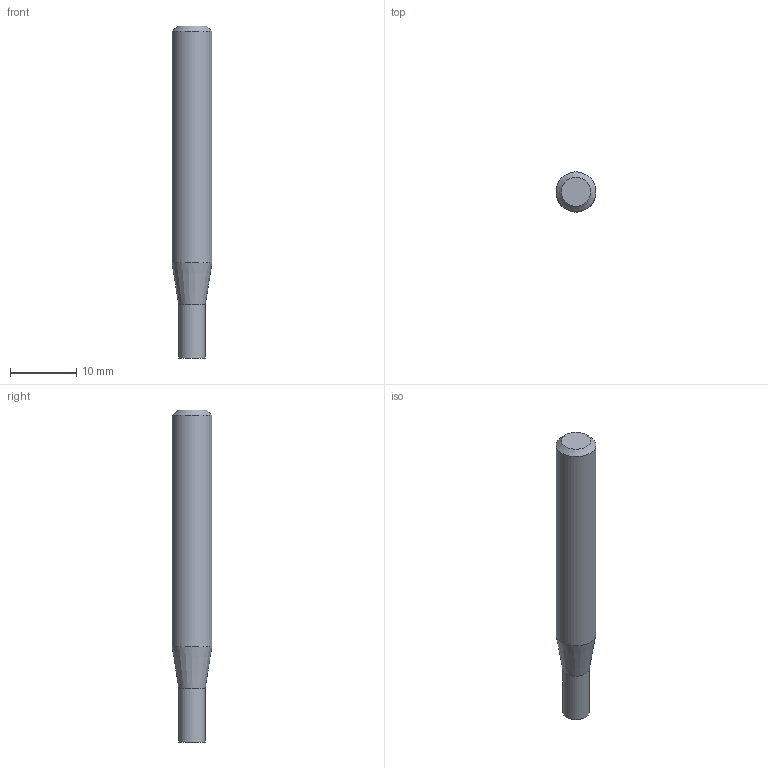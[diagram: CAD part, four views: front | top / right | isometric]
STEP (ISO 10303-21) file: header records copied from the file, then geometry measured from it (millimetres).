
FILE_DESCRIPTION((''),'2;1');
FILE_NAME('C:\Users\nsx150\AppData\Local\Temp\Mastercam 2021\W9Z147XDNF\TEMP.step','2021-04-08T14:30:00',(''),(''),'STEP Write','Mastercam 2021 ... CNC Software, Inc.','');
FILE_SCHEMA(('AUTOMOTIVE_DESIGN'));
Length unit declared in the file: millimetre
Products named in the file (1): None
Bounding box: 6 x 6 x 50 mm (x, y, z)
Volume: 1229.7 mm3; surface area: 929.9 mm2
Topology: 2 solids, 2 shells, 8 faces, 10 edges, 6 vertices
Faces by surface type: plane 4, cylinder 2, cone 2
Full cylindrical faces by diameter (mm): 4 x1, 6 x1
Entity records: 190 total; most frequent: DIRECTION 32, CARTESIAN_POINT 22, AXIS2_PLACEMENT_3D 16, ORIENTED_EDGE 12, EDGE_LOOP 12, STYLED_ITEM 11, ADVANCED_FACE 8, VERTEX_POINT 6
